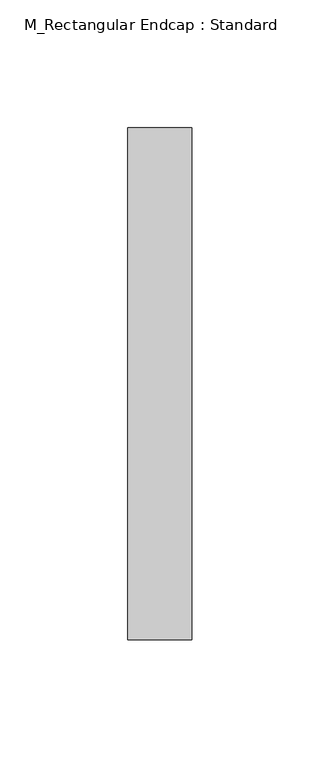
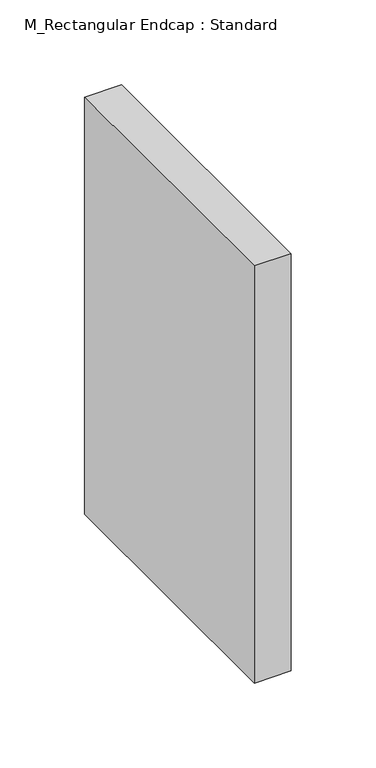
"""IFC4 building model written with IfcOpenShell, lengths in millimetres: duct fitting geometry, M_Rectangular Endcap : Standard."""

from ifc_helpers import new_model, si_unit, frame, origin, place, context, project, spatial, polyline, outline, extrude, source, transform, mapped, element, save


def m_rectangular_endcap_standard_1e8adfdf(model_context):
    return source(origin(), model_context, "Body", "SweptSolid", [
        extrude(outline(polyline([(0.0, -100.0), (0.0, 100.0), (25.0, 100.0), (25.0, -100.0), (0.0, -100.0)])), frame((0.0, 0.0, -150.0), z_axis=(0.0, 0.0, 1.0), x_axis=(1.0, 0.0, 0.0)), (0.0, 0.0, 1.0), 300.0),
    ])


if __name__ == "__main__":
    model = new_model("IFC4")
    model_context = context("Model", 3, world=origin())
    ifc_project = project(units=[si_unit("LENGTHUNIT", "METRE", prefix="MILLI")], contexts=[model_context])
    site = spatial("IfcSite", under=ifc_project)
    building = spatial("IfcBuilding", under=site)
    placement = place(None, origin())
    m_rectangular_endcap_standard_shape = m_rectangular_endcap_standard_1e8adfdf(model_context)
    element("IfcDuctFitting", 1, ObjectType="M_Rectangular Endcap : Standard", at=placement, inside=building, context=model_context, shape_type="MappedRepresentation", body=[
        mapped(m_rectangular_endcap_standard_shape, transform((0.0, 0.0, 0.0), x_axis=(1.0, 0.0, 0.0), y_axis=(0.0, 1.0, 0.0), z_axis=(0.0, 0.0, 1.0))),
    ])
    save(model, "model.ifc")
